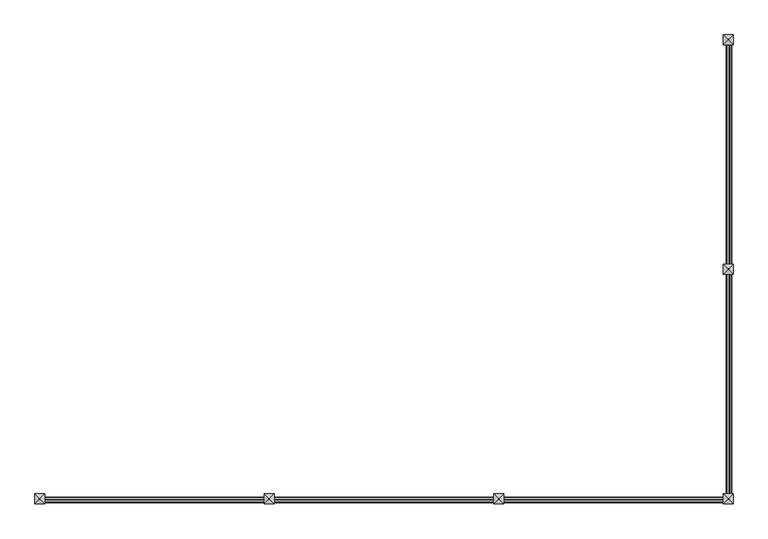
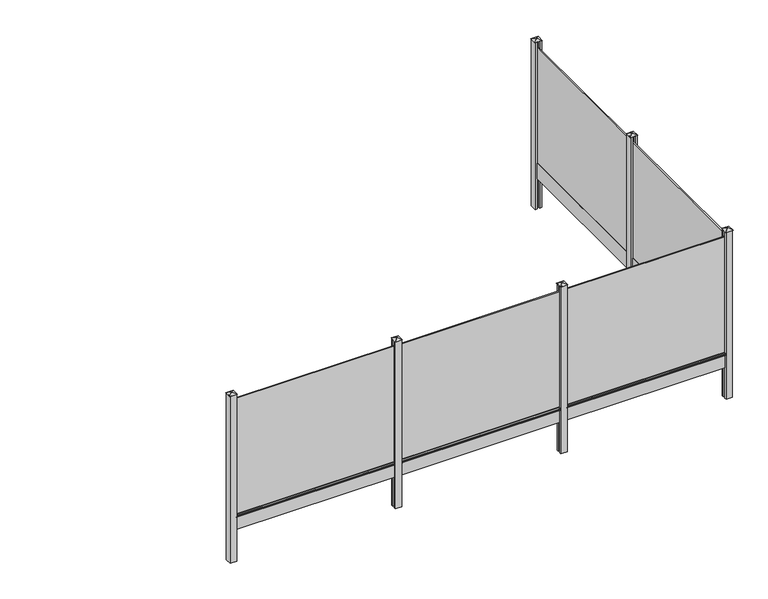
"""IFC4 building model written with IfcOpenShell, lengths in millimetres: railing geometry, Mehat - Railing - Plaque de Soubassement - Classique pour clôture rigide - 252.5x25x3.8 cm."""

from ifc_helpers import new_model, si_unit, point, frame, frame_2d, origin, origin_with_axes, place, context, project, spatial, polyline, circle_curve, trimmed, segment, composite_curve, outline, extrude, faceted_brep, source, transform, mapped, element, save


def railing_d7e8f1aa(model_context):
    return source(origin(), model_context, "Body", "SolidModel", [
        extrude(outline(polyline([(128896.2516516, -11002.4943936), (128879.2516516, -11002.4943936), (128879.2516516, -8477.4943936), (128896.2516516, -8477.4943936), (128896.2516516, -11002.4943936)])), frame((0.0, 0.0, 250.0), z_axis=(0.0, 0.0, 1.0), x_axis=(1.0, 0.0, 0.0)), (0.0, 0.0, 1.0), 1900.0),
        extrude(outline(polyline([(128906.7516516, -11002.4943936), (128868.7516516, -11002.4943936), (128868.7516516, -8477.4943936), (128906.7516516, -8477.4943936), (128906.7516516, -11002.4943936)])), origin_with_axes(), (0.0, 0.0, 1.0), 250.0),
        extrude(outline(composite_curve([segment(polyline([(210.0, 128906.7516516), (217.1937129, 128928.3327905)]), True, "CONTINUOUS"), segment(trimmed(circle_curve(frame_2d((221.9371294, 128926.7516516)), 5.0), [point((217.1937129, 128928.3327905))], [point((221.9371294, 128931.7516516))], False, "CARTESIAN"), True, "CONTINUOUS"), segment(polyline([(221.9371294, 128931.7516516), (238.0628706, 128931.7516516)]), True, "CONTINUOUS"), segment(trimmed(circle_curve(frame_2d((238.0628706, 128926.7516516)), 5.0), [point((238.0628706, 128931.7516516))], [point((242.8062871, 128928.3327905))], False, "CARTESIAN"), True, "CONTINUOUS"), segment(polyline([(242.8062871, 128928.3327905), (250.0, 128906.7516516), (210.0, 128906.7516516)]), True, "CONTINUOUS")], self_intersect=False)), frame((0.0, -10977.4943936, 0.0), z_axis=(0.0, 1.0, 0.0), x_axis=(0.0, 0.0, 1.0)), (0.0, 0.0, 1.0), 2475.0),
        extrude(outline(polyline([(128937.7516516, -11077.4943936), (128906.7516516, -11077.4943936), (128906.7516516, -11052.4943936), (128868.7516516, -11052.4943936), (128868.7516516, -11077.4943936), (128837.7516516, -11077.4943936), (128837.7516516, -10977.4943936), (128868.7516516, -10977.4943936), (128868.7516516, -11002.4943936), (128906.7516516, -11002.4943936), (128906.7516516, -10977.4943936), (128937.7516516, -10977.4943936), (128937.7516516, -11077.4943936)])), frame((0.0, 0.0, -500.0), z_axis=(0.0, 0.0, 1.0), x_axis=(1.0, 0.0, 0.0)), (0.0, 0.0, 1.0), 2750.0),
        faceted_brep([(128881.3471055, -11021.1443936, 2275.4), (128881.3471055, -11033.8443936, 2275.4), (128894.0471055, -11033.8443936, 2275.4), (128894.0471055, -11021.1443936, 2275.4), (128831.4016516, -10971.1443936, 2250.0), (128944.1016516, -10971.1443936, 2250.0), (128944.1016516, -11083.8443936, 2250.0), (128831.4016516, -11083.8443936, 2250.0)], [[[0, 1, 2, 3]], [[4, 5, 6, 7]], [[4, 0, 3, 5]], [[5, 3, 2, 6]], [[6, 2, 1, 7]], [[7, 1, 0, 4]]]),
        extrude(outline(polyline([(128896.2516516, -13577.4943936), (128879.2516516, -13577.4943936), (128879.2516516, -11052.4943936), (128896.2516516, -11052.4943936), (128896.2516516, -13577.4943936)])), frame((0.0, 0.0, 250.0), z_axis=(0.0, 0.0, 1.0), x_axis=(1.0, 0.0, 0.0)), (0.0, 0.0, 1.0), 1900.0),
        extrude(outline(polyline([(128906.7516516, -13577.4943936), (128868.7516516, -13577.4943936), (128868.7516516, -11052.4943936), (128906.7516516, -11052.4943936), (128906.7516516, -13577.4943936)])), origin_with_axes(), (0.0, 0.0, 1.0), 250.0),
        extrude(outline(composite_curve([segment(polyline([(210.0, 128906.7516516), (217.1937129, 128928.3327905)]), True, "CONTINUOUS"), segment(trimmed(circle_curve(frame_2d((221.9371294, 128926.7516516)), 5.0), [point((217.1937129, 128928.3327905))], [point((221.9371294, 128931.7516516))], False, "CARTESIAN"), True, "CONTINUOUS"), segment(polyline([(221.9371294, 128931.7516516), (238.0628706, 128931.7516516)]), True, "CONTINUOUS"), segment(trimmed(circle_curve(frame_2d((238.0628706, 128926.7516516)), 5.0), [point((238.0628706, 128931.7516516))], [point((242.8062871, 128928.3327905))], False, "CARTESIAN"), True, "CONTINUOUS"), segment(polyline([(242.8062871, 128928.3327905), (250.0, 128906.7516516), (210.0, 128906.7516516)]), True, "CONTINUOUS")], self_intersect=False)), frame((0.0, -13552.4943936, 0.0), z_axis=(0.0, 1.0, 0.0), x_axis=(0.0, 0.0, 1.0)), (0.0, 0.0, 1.0), 2475.0),
        extrude(outline(polyline([(126337.7516516, -13610.9943936), (126337.7516516, -13593.9943936), (128862.7516516, -13593.9943936), (128862.7516516, -13610.9943936), (126337.7516516, -13610.9943936)])), frame((0.0, 0.0, 250.0), z_axis=(0.0, 0.0, 1.0), x_axis=(1.0, 0.0, 0.0)), (0.0, 0.0, 1.0), 1900.0),
        extrude(outline(polyline([(126337.7516516, -13621.4943936), (126337.7516516, -13583.4943936), (128862.7516516, -13583.4943936), (128862.7516516, -13621.4943936), (126337.7516516, -13621.4943936)])), origin_with_axes(), (0.0, 0.0, 1.0), 250.0),
        extrude(outline(composite_curve([segment(polyline([(-13621.4943936, 210.0), (-13643.0755325, 217.1937129)]), True, "CONTINUOUS"), segment(trimmed(circle_curve(frame_2d((-13641.4943936, 221.9371294)), 5.0), [point((-13643.0755325, 217.1937129))], [point((-13646.4943936, 221.9371294))], False, "CARTESIAN"), True, "CONTINUOUS"), segment(polyline([(-13646.4943936, 221.9371294), (-13646.4943936, 238.0628706)]), True, "CONTINUOUS"), segment(trimmed(circle_curve(frame_2d((-13641.4943936, 238.0628706)), 5.0), [point((-13646.4943936, 238.0628706))], [point((-13643.0755325, 242.8062871))], False, "CARTESIAN"), True, "CONTINUOUS"), segment(polyline([(-13643.0755325, 242.8062871), (-13621.4943936, 250.0), (-13621.4943936, 210.0)]), True, "CONTINUOUS")], self_intersect=False)), frame((126362.7516516, 0.0, 0.0), z_axis=(1.0, 0.0, 0.0), x_axis=(0.0, 1.0, 0.0)), (0.0, 0.0, 1.0), 2475.0),
        extrude(outline(polyline([(126262.7516516, -13652.4943936), (126262.7516516, -13621.4943936), (126287.7516516, -13621.4943936), (126287.7516516, -13583.4943936), (126262.7516516, -13583.4943936), (126262.7516516, -13552.4943936), (126362.7516516, -13552.4943936), (126362.7516516, -13583.4943936), (126337.7516516, -13583.4943936), (126337.7516516, -13621.4943936), (126362.7516516, -13621.4943936), (126362.7516516, -13652.4943936), (126262.7516516, -13652.4943936)])), frame((0.0, 0.0, -500.0), z_axis=(0.0, 0.0, 1.0), x_axis=(1.0, 0.0, 0.0)), (0.0, 0.0, 1.0), 2750.0),
        faceted_brep([(126319.1016516, -13596.0898475, 2275.4), (126306.4016516, -13596.0898475, 2275.4), (126306.4016516, -13608.7898475, 2275.4), (126319.1016516, -13608.7898475, 2275.4), (126369.1016516, -13546.1443936, 2250.0), (126369.1016516, -13658.8443936, 2250.0), (126256.4016516, -13658.8443936, 2250.0), (126256.4016516, -13546.1443936, 2250.0)], [[[0, 1, 2, 3]], [[4, 5, 6, 7]], [[4, 0, 3, 5]], [[5, 3, 2, 6]], [[6, 2, 1, 7]], [[7, 1, 0, 4]]]),
        extrude(outline(polyline([(123762.7516516, -13610.9943936), (123762.7516516, -13593.9943936), (126287.7516516, -13593.9943936), (126287.7516516, -13610.9943936), (123762.7516516, -13610.9943936)])), frame((0.0, 0.0, 250.0), z_axis=(0.0, 0.0, 1.0), x_axis=(1.0, 0.0, 0.0)), (0.0, 0.0, 1.0), 1900.0),
        extrude(outline(polyline([(123762.7516516, -13621.4943936), (123762.7516516, -13583.4943936), (126287.7516516, -13583.4943936), (126287.7516516, -13621.4943936), (123762.7516516, -13621.4943936)])), origin_with_axes(), (0.0, 0.0, 1.0), 250.0),
        extrude(outline(composite_curve([segment(polyline([(-13621.4943936, 210.0), (-13643.0755325, 217.1937129)]), True, "CONTINUOUS"), segment(trimmed(circle_curve(frame_2d((-13641.4943936, 221.9371294)), 5.0), [point((-13643.0755325, 217.1937129))], [point((-13646.4943936, 221.9371294))], False, "CARTESIAN"), True, "CONTINUOUS"), segment(polyline([(-13646.4943936, 221.9371294), (-13646.4943936, 238.0628706)]), True, "CONTINUOUS"), segment(trimmed(circle_curve(frame_2d((-13641.4943936, 238.0628706)), 5.0), [point((-13646.4943936, 238.0628706))], [point((-13643.0755325, 242.8062871))], False, "CARTESIAN"), True, "CONTINUOUS"), segment(polyline([(-13643.0755325, 242.8062871), (-13621.4943936, 250.0), (-13621.4943936, 210.0)]), True, "CONTINUOUS")], self_intersect=False)), frame((123787.7516516, 0.0, 0.0), z_axis=(1.0, 0.0, 0.0), x_axis=(0.0, 1.0, 0.0)), (0.0, 0.0, 1.0), 2475.0),
        extrude(outline(polyline([(123687.7516516, -13652.4943936), (123687.7516516, -13621.4943936), (123712.7516516, -13621.4943936), (123712.7516516, -13583.4943936), (123687.7516516, -13583.4943936), (123687.7516516, -13552.4943936), (123787.7516516, -13552.4943936), (123787.7516516, -13583.4943936), (123762.7516516, -13583.4943936), (123762.7516516, -13621.4943936), (123787.7516516, -13621.4943936), (123787.7516516, -13652.4943936), (123687.7516516, -13652.4943936)])), frame((0.0, 0.0, -500.0), z_axis=(0.0, 0.0, 1.0), x_axis=(1.0, 0.0, 0.0)), (0.0, 0.0, 1.0), 2750.0),
        faceted_brep([(123744.1016516, -13596.0898475, 2275.4), (123731.4016516, -13596.0898475, 2275.4), (123731.4016516, -13608.7898475, 2275.4), (123744.1016516, -13608.7898475, 2275.4), (123794.1016516, -13546.1443936, 2250.0), (123794.1016516, -13658.8443936, 2250.0), (123681.4016516, -13658.8443936, 2250.0), (123681.4016516, -13546.1443936, 2250.0)], [[[0, 1, 2, 3]], [[4, 5, 6, 7]], [[4, 0, 3, 5]], [[5, 3, 2, 6]], [[6, 2, 1, 7]], [[7, 1, 0, 4]]]),
        extrude(outline(polyline([(121187.7516516, -13610.9943936), (121187.7516516, -13593.9943936), (123712.7516516, -13593.9943936), (123712.7516516, -13610.9943936), (121187.7516516, -13610.9943936)])), frame((0.0, 0.0, 250.0), z_axis=(0.0, 0.0, 1.0), x_axis=(1.0, 0.0, 0.0)), (0.0, 0.0, 1.0), 1900.0),
        extrude(outline(polyline([(121187.7516516, -13621.4943936), (121187.7516516, -13583.4943936), (123712.7516516, -13583.4943936), (123712.7516516, -13621.4943936), (121187.7516516, -13621.4943936)])), origin_with_axes(), (0.0, 0.0, 1.0), 250.0),
        extrude(outline(composite_curve([segment(polyline([(-13621.4943936, 210.0), (-13643.0755325, 217.1937129)]), True, "CONTINUOUS"), segment(trimmed(circle_curve(frame_2d((-13641.4943936, 221.9371294)), 5.0), [point((-13643.0755325, 217.1937129))], [point((-13646.4943936, 221.9371294))], False, "CARTESIAN"), True, "CONTINUOUS"), segment(polyline([(-13646.4943936, 221.9371294), (-13646.4943936, 238.0628706)]), True, "CONTINUOUS"), segment(trimmed(circle_curve(frame_2d((-13641.4943936, 238.0628706)), 5.0), [point((-13646.4943936, 238.0628706))], [point((-13643.0755325, 242.8062871))], False, "CARTESIAN"), True, "CONTINUOUS"), segment(polyline([(-13643.0755325, 242.8062871), (-13621.4943936, 250.0), (-13621.4943936, 210.0)]), True, "CONTINUOUS")], self_intersect=False)), frame((121212.7516516, 0.0, 0.0), z_axis=(1.0, 0.0, 0.0), x_axis=(0.0, 1.0, 0.0)), (0.0, 0.0, 1.0), 2475.0),
        extrude(outline(polyline([(128837.7516516, -13652.4943936), (128837.7516516, -13621.4943936), (128862.7516516, -13621.4943936), (128862.7516516, -13583.4943936), (128837.7516516, -13583.4943936), (128837.7516516, -13552.4943936), (128868.7516516, -13552.4943936), (128868.7516516, -13577.4943936), (128906.7516516, -13577.4943936), (128906.7516516, -13552.4943936), (128937.7516516, -13552.4943936), (128937.7516516, -13652.4943936), (128837.7516516, -13652.4943936)])), frame((0.0, 0.0, -500.0), z_axis=(0.0, 0.0, 1.0), x_axis=(1.0, 0.0, 0.0)), (0.0, 0.0, 1.0), 2750.0),
        faceted_brep([(128894.1016516, -13596.0898475, 2275.4), (128881.4016516, -13596.0898475, 2275.4), (128881.4016516, -13608.7898475, 2275.4), (128894.1016516, -13608.7898475, 2275.4), (128944.1016516, -13546.1443936, 2250.0), (128944.1016516, -13658.8443936, 2250.0), (128831.4016516, -13658.8443936, 2250.0), (128831.4016516, -13546.1443936, 2250.0)], [[[0, 1, 2, 3]], [[4, 5, 6, 7]], [[4, 0, 3, 5]], [[5, 3, 2, 6]], [[6, 2, 1, 7]], [[7, 1, 0, 4]]]),
        extrude(outline(polyline([(128937.7516516, -8502.4943936), (128906.7516516, -8502.4943936), (128906.7516516, -8477.4943936), (128868.7516516, -8477.4943936), (128868.7516516, -8502.4943936), (128837.7516516, -8502.4943936), (128837.7516516, -8402.4943936), (128937.7516516, -8402.4943936), (128937.7516516, -8502.4943936)])), frame((0.0, 0.0, -500.0), z_axis=(0.0, 0.0, 1.0), x_axis=(1.0, 0.0, 0.0)), (0.0, 0.0, 1.0), 2750.0),
        faceted_brep([(128881.3471055, -8446.1443936, 2275.4), (128881.3471055, -8458.8443936, 2275.4), (128894.0471055, -8458.8443936, 2275.4), (128894.0471055, -8446.1443936, 2275.4), (128831.4016516, -8396.1443936, 2250.0), (128944.1016516, -8396.1443936, 2250.0), (128944.1016516, -8508.8443936, 2250.0), (128831.4016516, -8508.8443936, 2250.0)], [[[0, 1, 2, 3]], [[4, 5, 6, 7]], [[4, 0, 3, 5]], [[5, 3, 2, 6]], [[6, 2, 1, 7]], [[7, 1, 0, 4]]]),
        extrude(outline(polyline([(121112.7516516, -13652.4943936), (121112.7516516, -13552.4943936), (121212.7516516, -13552.4943936), (121212.7516516, -13583.4943936), (121187.7516516, -13583.4943936), (121187.7516516, -13621.4943936), (121212.7516516, -13621.4943936), (121212.7516516, -13652.4943936), (121112.7516516, -13652.4943936)])), frame((0.0, 0.0, -500.0), z_axis=(0.0, 0.0, 1.0), x_axis=(1.0, 0.0, 0.0)), (0.0, 0.0, 1.0), 2750.0),
        faceted_brep([(121169.1016516, -13596.0898475, 2275.4), (121156.4016516, -13596.0898475, 2275.4), (121156.4016516, -13608.7898475, 2275.4), (121169.1016516, -13608.7898475, 2275.4), (121219.1016516, -13546.1443936, 2250.0), (121219.1016516, -13658.8443936, 2250.0), (121106.4016516, -13658.8443936, 2250.0), (121106.4016516, -13546.1443936, 2250.0)], [[[0, 1, 2, 3]], [[4, 5, 6, 7]], [[4, 0, 3, 5]], [[5, 3, 2, 6]], [[6, 2, 1, 7]], [[7, 1, 0, 4]]]),
    ])


if __name__ == "__main__":
    model = new_model("IFC4")
    model_context = context("Model", 3, world=origin())
    ifc_project = project(units=[si_unit("LENGTHUNIT", "METRE", prefix="MILLI")], contexts=[model_context])
    site = spatial("IfcSite", under=ifc_project)
    building = spatial("IfcBuilding", under=site)
    placement = place(None, origin())
    railing_shape = railing_d7e8f1aa(model_context)
    element("IfcRailing", 1, ObjectType="Mehat - Railing - Plaque de Soubassement - Classique pour clôture rigide - 252.5x25x3.8 cm", at=placement, inside=building, context=model_context, shape_type="MappedRepresentation", body=[
        mapped(railing_shape, transform((0.0, 0.0, 0.0), x_axis=(1.0, 0.0, 0.0), y_axis=(0.0, 1.0, 0.0), z_axis=(0.0, 0.0, 1.0))),
    ])
    save(model, "model.ifc")
